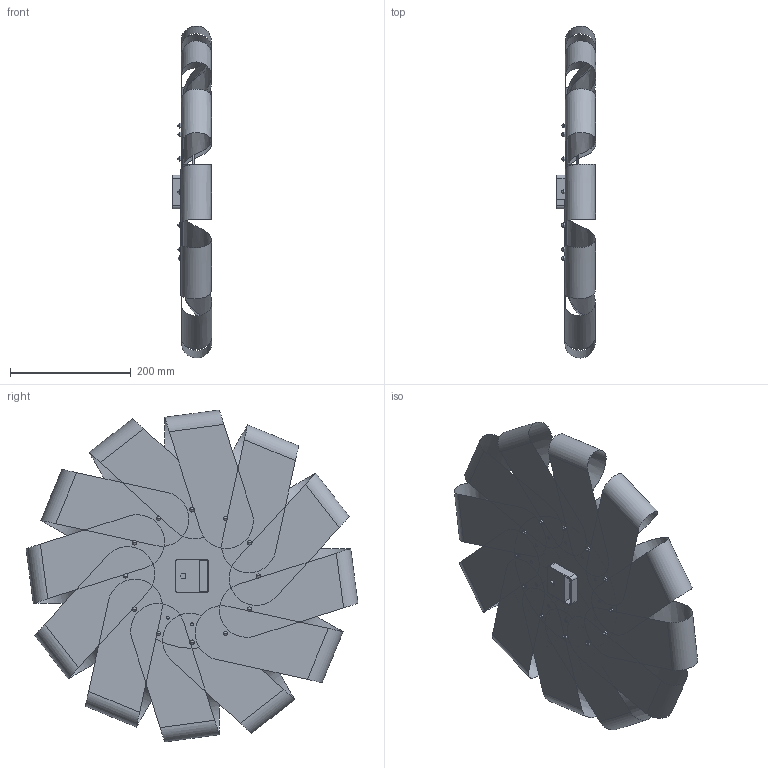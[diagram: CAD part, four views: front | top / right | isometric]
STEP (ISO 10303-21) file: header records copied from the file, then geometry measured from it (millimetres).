
FILE_DESCRIPTION (( 'STEP AP214' ), '1' );
FILE_NAME ('NUEVO MODELO BRISA.STEP', '2022-01-26T12:54:19', ( '' ), ( '' ), 'SwSTEP 2.0', 'SolidWorks 2016', '' );
FILE_SCHEMA (( 'AUTOMOTIVE_DESIGN' ));
Length unit declared in the file: millimetre
Products named in the file (23): AGUJA_HORARIA_RELOJ_FLOR_NOGAL; CHAPA MADERA CURVADA 10 BRISA; CHAPA MADERA CURVADA 12 BRISA; CHAPA MADERA CURVADA 6 BRISA; CHAPA MADERA CURVADA 7 BRISA; CHAPA MADERA CURVADA 11 BRISA; CHAPA MADERA CURVADA 3 BRISA; CHAPA MADERA CURVADA 9 BRISA; Tuerca; Pasante; ROSCA_MECANISMO_RELOJ_FLOR; CHAPA MADERA CURVADA BRISA; NUEVO MODELO BRISA; CHAPA MADERA CURVADA 8 BRISA; CHAPA MADERA CURVADA 5 BRISA; CHAPA MADERA CURVADA 4 BRISA; CHAPA MADERA CURVADA 2 BRISA; TUERCA_CIEGA_M4; AGUJA_MINUTERA_RELOJ_FLOR_NOGAL; BOLITA_UNION_CHAPAS; Arandela_2; CHAPA METÁLICA CENTRAL; MECANISMO_SINGULAR
Assembly tree (44 placements, depth 2):
  NUEVO MODELO BRISA
    CHAPA METÁLICA CENTRAL
    CHAPA MADERA CURVADA BRISA
    CHAPA MADERA CURVADA 2 BRISA
    CHAPA MADERA CURVADA 3 BRISA
    CHAPA MADERA CURVADA 4 BRISA
    CHAPA MADERA CURVADA 5 BRISA
    CHAPA MADERA CURVADA 6 BRISA
    CHAPA MADERA CURVADA 7 BRISA
    CHAPA MADERA CURVADA 8 BRISA
    CHAPA MADERA CURVADA 9 BRISA
    CHAPA MADERA CURVADA 10 BRISA
    CHAPA MADERA CURVADA 11 BRISA
    CHAPA MADERA CURVADA 12 BRISA
    AGUJA_MINUTERA_RELOJ_FLOR_NOGAL
    AGUJA_HORARIA_RELOJ_FLOR_NOGAL
    Tuerca
    Arandela_2
    Pasante
    BOLITA_UNION_CHAPAS  x12
    ROSCA_MECANISMO_RELOJ_FLOR
    MECANISMO_SINGULAR
    TUERCA_CIEGA_M4  x12
Bounding box: 65.96 x 549.99 x 549.99 mm (x, y, z)
Volume: 94307.8 mm3; surface area: 666207.9 mm2
Topology: 32 solids, 68 shells, 452 faces, 1206 edges, 841 vertices
Faces by surface type: plane 203, cylinder 153, sphere 50, cone 26, bspline 12, torus 8
Entity records: 11381 total; most frequent: CARTESIAN_POINT 3523, DIRECTION 1542, ORIENTED_EDGE 1208, EDGE_CURVE 676, AXIS2_PLACEMENT_3D 624, VERTEX_POINT 493, CIRCLE 334, EDGE_LOOP 333
